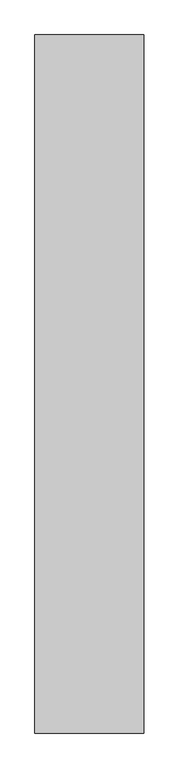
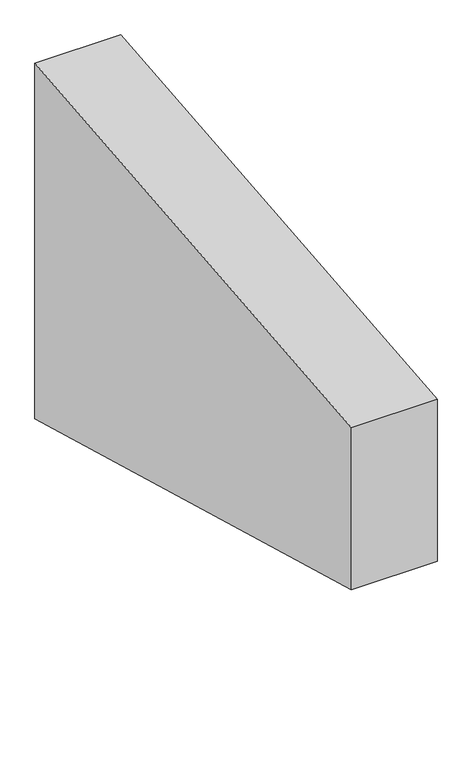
"""IFC4 building model written with IfcOpenShell, lengths in millimetres: beam geometry, mensola1 : mensola."""

from ifc_helpers import new_model, si_unit, frame, origin, place, context, project, spatial, polyline, outline, extrude, source, transform, mapped, element, save


def beam_ebc30045(model_context):
    return source(origin(), model_context, "Body", "SweptSolid", [
        extrude(outline(polyline([(23913.3920265, -5124.2740657), (23913.3920265, -4624.2740657), (25513.3893107, -4470.0), (25513.3893107, -5566.6914971), (23913.3920265, -5124.2740657)])), frame((-5436.275001, 0.0, 0.0), z_axis=(1.0, 0.0, 0.0), x_axis=(0.0, 1.0, 0.0)), (0.0, 0.0, 1.0), 250.0),
    ])


if __name__ == "__main__":
    model = new_model("IFC4")
    model_context = context("Model", 3, world=origin())
    ifc_project = project(units=[si_unit("LENGTHUNIT", "METRE", prefix="MILLI")], contexts=[model_context])
    site = spatial("IfcSite", under=ifc_project)
    building = spatial("IfcBuilding", under=site)
    placement = place(None, origin())
    beam_shape = beam_ebc30045(model_context)
    element("IfcBeam", 1, ObjectType="mensola1 : mensola", at=placement, inside=building, context=model_context, shape_type="MappedRepresentation", body=[
        mapped(beam_shape, transform((0.0, 0.0, 0.0), x_axis=(1.0, 0.0, 0.0), y_axis=(0.0, 1.0, 0.0), z_axis=(0.0, 0.0, 1.0))),
    ])
    save(model, "model.ifc")
